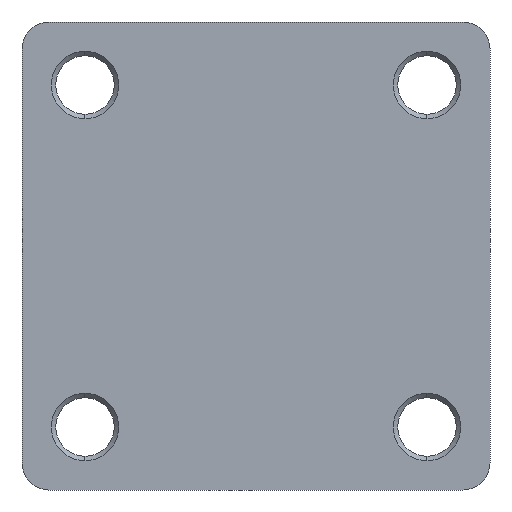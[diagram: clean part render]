
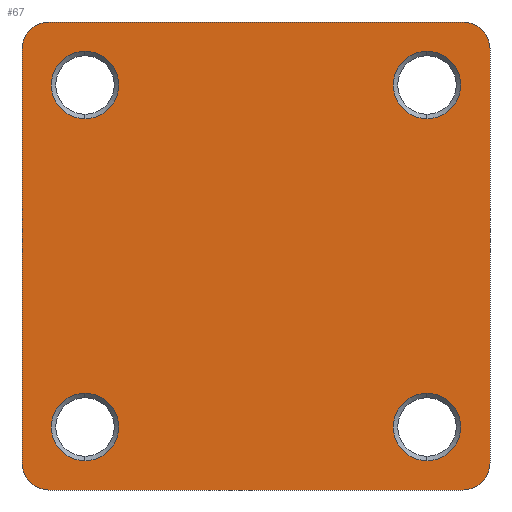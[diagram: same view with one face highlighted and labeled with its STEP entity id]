
A CAD part, left-side view. The second image highlights one B-rep face of the part: STEP entity #67.
In plain terms, the highlighted planar face has unit normal (-1, 0, 0).
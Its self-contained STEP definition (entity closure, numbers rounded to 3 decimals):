
#2 = DIRECTION ( 'NONE',  ( -1., 0., 0. ) ) ;
#18 = AXIS2_PLACEMENT_3D ( 'NONE', #542, #807, #662 ) ;
#19 = CARTESIAN_POINT ( 'NONE',  ( -9., -19., 19. ) ) ;
#25 = EDGE_LOOP ( 'NONE', ( #1156, #306 ) ) ;
#27 = CARTESIAN_POINT ( 'NONE',  ( -9., -26., 23. ) ) ;
#37 = AXIS2_PLACEMENT_3D ( 'NONE', #1829, #102, #495 ) ;
#67 = ADVANCED_FACE ( 'NONE', ( #1823, #921, #548, #1492, #1108 ), #963, .F. ) ;
#82 = AXIS2_PLACEMENT_3D ( 'NONE', #674, #565, #1433 ) ;
#102 = DIRECTION ( 'NONE',  ( -1., 0., 0. ) ) ;
#114 = CARTESIAN_POINT ( 'NONE',  ( -9., -19., 15.25 ) ) ;
#151 = EDGE_CURVE ( 'NONE', #1429, #567, #1129, .T. ) ;
#152 = EDGE_LOOP ( 'NONE', ( #1633, #247 ) ) ;
#155 = CARTESIAN_POINT ( 'NONE',  ( -9., 19., -15.25 ) ) ;
#157 = VERTEX_POINT ( 'NONE', #155 ) ;
#172 = EDGE_CURVE ( 'NONE', #1789, #1831, #743, .T. ) ;
#229 = DIRECTION ( 'NONE',  ( -1., 0., 0. ) ) ;
#233 = CARTESIAN_POINT ( 'NONE',  ( -9., 19., 19. ) ) ;
#235 = CARTESIAN_POINT ( 'NONE',  ( -9., 23., 23. ) ) ;
#243 = CARTESIAN_POINT ( 'NONE',  ( -9., 23., -23. ) ) ;
#247 = ORIENTED_EDGE ( 'NONE', *, *, #172, .F. ) ;
#265 = EDGE_CURVE ( 'NONE', #902, #818, #1338, .T. ) ;
#272 = DIRECTION ( 'NONE',  ( 0., 0., -1. ) ) ;
#276 = CARTESIAN_POINT ( 'NONE',  ( -9., 19., -22.75 ) ) ;
#280 = CARTESIAN_POINT ( 'NONE',  ( -9., 19., -19. ) ) ;
#285 = ORIENTED_EDGE ( 'NONE', *, *, #643, .F. ) ;
#293 = AXIS2_PLACEMENT_3D ( 'NONE', #235, #369, #1503 ) ;
#306 = ORIENTED_EDGE ( 'NONE', *, *, #851, .F. ) ;
#316 = VERTEX_POINT ( 'NONE', #27 ) ;
#337 = LINE ( 'NONE', #1044, #1394 ) ;
#350 = EDGE_LOOP ( 'NONE', ( #682, #937 ) ) ;
#364 = ORIENTED_EDGE ( 'NONE', *, *, #1454, .F. ) ;
#367 = EDGE_CURVE ( 'NONE', #959, #585, #337, .T. ) ;
#369 = DIRECTION ( 'NONE',  ( 1., 0., 0. ) ) ;
#381 = DIRECTION ( 'NONE',  ( 0., 0., -1. ) ) ;
#453 = CIRCLE ( 'NONE', #18, 3.75 ) ;
#495 = DIRECTION ( 'NONE',  ( 0., 0., 1. ) ) ;
#496 = LINE ( 'NONE', #755, #987 ) ;
#502 = CIRCLE ( 'NONE', #82, 3. ) ;
#514 = DIRECTION ( 'NONE',  ( 0., 0., 1. ) ) ;
#528 = ORIENTED_EDGE ( 'NONE', *, *, #696, .F. ) ;
#542 = CARTESIAN_POINT ( 'NONE',  ( -9., 19., -19. ) ) ;
#548 = FACE_BOUND ( 'NONE', #350, .T. ) ;
#555 = DIRECTION ( 'NONE',  ( 0., 0., 1. ) ) ;
#565 = DIRECTION ( 'NONE',  ( 1., 0., 0. ) ) ;
#567 = VERTEX_POINT ( 'NONE', #1797 ) ;
#581 = LINE ( 'NONE', #1079, #1033 ) ;
#585 = VERTEX_POINT ( 'NONE', #1032 ) ;
#643 = EDGE_CURVE ( 'NONE', #818, #902, #1151, .T. ) ;
#647 = EDGE_CURVE ( 'NONE', #1831, #1789, #1465, .T. ) ;
#662 = DIRECTION ( 'NONE',  ( 0., 0., 1. ) ) ;
#674 = CARTESIAN_POINT ( 'NONE',  ( -9., -23., -23. ) ) ;
#676 = EDGE_CURVE ( 'NONE', #1434, #724, #679, .T. ) ;
#679 = LINE ( 'NONE', #1537, #1490 ) ;
#682 = ORIENTED_EDGE ( 'NONE', *, *, #1459, .F. ) ;
#692 = ORIENTED_EDGE ( 'NONE', *, *, #367, .F. ) ;
#696 = EDGE_CURVE ( 'NONE', #585, #1434, #1801, .T. ) ;
#724 = VERTEX_POINT ( 'NONE', #1515 ) ;
#730 = DIRECTION ( 'NONE',  ( 0., 0., 1. ) ) ;
#731 = EDGE_CURVE ( 'NONE', #316, #1732, #581, .T. ) ;
#738 = CARTESIAN_POINT ( 'NONE',  ( -9., -23., 26. ) ) ;
#740 = AXIS2_PLACEMENT_3D ( 'NONE', #243, #1678, #1830 ) ;
#743 = CIRCLE ( 'NONE', #1234, 3.75 ) ;
#754 = ORIENTED_EDGE ( 'NONE', *, *, #731, .F. ) ;
#755 = CARTESIAN_POINT ( 'NONE',  ( -9., 23., 26. ) ) ;
#802 = DIRECTION ( 'NONE',  ( 1., 0., 0. ) ) ;
#807 = DIRECTION ( 'NONE',  ( -1., 0., 0. ) ) ;
#818 = VERTEX_POINT ( 'NONE', #114 ) ;
#851 = EDGE_CURVE ( 'NONE', #995, #157, #453, .T. ) ;
#858 = CARTESIAN_POINT ( 'NONE',  ( -9., 19., 19. ) ) ;
#890 = CARTESIAN_POINT ( 'NONE',  ( -9., 19., 15.25 ) ) ;
#902 = VERTEX_POINT ( 'NONE', #1554 ) ;
#905 = EDGE_CURVE ( 'NONE', #1732, #959, #502, .T. ) ;
#921 = FACE_BOUND ( 'NONE', #152, .T. ) ;
#923 = EDGE_CURVE ( 'NONE', #157, #995, #1771, .T. ) ;
#937 = ORIENTED_EDGE ( 'NONE', *, *, #151, .F. ) ;
#939 = AXIS2_PLACEMENT_3D ( 'NONE', #1708, #1125, #272 ) ;
#942 = CARTESIAN_POINT ( 'NONE',  ( -9., -19., -22.75 ) ) ;
#949 = ORIENTED_EDGE ( 'NONE', *, *, #676, .F. ) ;
#959 = VERTEX_POINT ( 'NONE', #1428 ) ;
#963 = PLANE ( 'NONE',  #939 ) ;
#987 = VECTOR ( 'NONE', #1631, 1000. ) ;
#989 = CARTESIAN_POINT ( 'NONE',  ( -9., -19., -19. ) ) ;
#995 = VERTEX_POINT ( 'NONE', #276 ) ;
#1008 = DIRECTION ( 'NONE',  ( -1., 0., 0. ) ) ;
#1032 = CARTESIAN_POINT ( 'NONE',  ( -9., 23., -26. ) ) ;
#1033 = VECTOR ( 'NONE', #381, 1000. ) ;
#1044 = CARTESIAN_POINT ( 'NONE',  ( -9., -23., -26. ) ) ;
#1045 = CIRCLE ( 'NONE', #293, 3. ) ;
#1069 = DIRECTION ( 'NONE',  ( 0., 1., 0. ) ) ;
#1075 = DIRECTION ( 'NONE',  ( 0., 0., -1. ) ) ;
#1079 = CARTESIAN_POINT ( 'NONE',  ( -9., -26., 23. ) ) ;
#1108 = FACE_OUTER_BOUND ( 'NONE', #1264, .T. ) ;
#1114 = ORIENTED_EDGE ( 'NONE', *, *, #265, .F. ) ;
#1125 = DIRECTION ( 'NONE',  ( 1., 0., 0. ) ) ;
#1129 = CIRCLE ( 'NONE', #1362, 3.75 ) ;
#1151 = CIRCLE ( 'NONE', #1688, 3.75 ) ;
#1156 = ORIENTED_EDGE ( 'NONE', *, *, #923, .F. ) ;
#1219 = CARTESIAN_POINT ( 'NONE',  ( -9., -23., 23. ) ) ;
#1224 = DIRECTION ( 'NONE',  ( -1., 0., 0. ) ) ;
#1231 = AXIS2_PLACEMENT_3D ( 'NONE', #233, #229, #514 ) ;
#1233 = CARTESIAN_POINT ( 'NONE',  ( -9., 19., 22.75 ) ) ;
#1234 = AXIS2_PLACEMENT_3D ( 'NONE', #858, #2, #1435 ) ;
#1247 = VERTEX_POINT ( 'NONE', #738 ) ;
#1264 = EDGE_LOOP ( 'NONE', ( #364, #1493, #1706, #949, #528, #692, #1307, #754 ) ) ;
#1307 = ORIENTED_EDGE ( 'NONE', *, *, #905, .F. ) ;
#1320 = AXIS2_PLACEMENT_3D ( 'NONE', #19, #1445, #730 ) ;
#1329 = EDGE_LOOP ( 'NONE', ( #1114, #285 ) ) ;
#1338 = CIRCLE ( 'NONE', #1320, 3.75 ) ;
#1359 = CARTESIAN_POINT ( 'NONE',  ( -9., -19., 19. ) ) ;
#1362 = AXIS2_PLACEMENT_3D ( 'NONE', #989, #1008, #1565 ) ;
#1366 = DIRECTION ( 'NONE',  ( 0., 0., 1. ) ) ;
#1394 = VECTOR ( 'NONE', #1069, 1000. ) ;
#1427 = VERTEX_POINT ( 'NONE', #1833 ) ;
#1428 = CARTESIAN_POINT ( 'NONE',  ( -9., -23., -26. ) ) ;
#1429 = VERTEX_POINT ( 'NONE', #942 ) ;
#1433 = DIRECTION ( 'NONE',  ( 0., 0., -1. ) ) ;
#1434 = VERTEX_POINT ( 'NONE', #1809 ) ;
#1435 = DIRECTION ( 'NONE',  ( 0., 0., 1. ) ) ;
#1445 = DIRECTION ( 'NONE',  ( -1., 0., 0. ) ) ;
#1454 = EDGE_CURVE ( 'NONE', #1247, #316, #1539, .T. ) ;
#1459 = EDGE_CURVE ( 'NONE', #567, #1429, #1677, .T. ) ;
#1465 = CIRCLE ( 'NONE', #1231, 3.75 ) ;
#1490 = VECTOR ( 'NONE', #1366, 1000. ) ;
#1492 = FACE_BOUND ( 'NONE', #1329, .T. ) ;
#1493 = ORIENTED_EDGE ( 'NONE', *, *, #1608, .F. ) ;
#1503 = DIRECTION ( 'NONE',  ( 0., 0., -1. ) ) ;
#1515 = CARTESIAN_POINT ( 'NONE',  ( -9., 26., 23. ) ) ;
#1537 = CARTESIAN_POINT ( 'NONE',  ( -9., 26., -23. ) ) ;
#1539 = CIRCLE ( 'NONE', #1715, 3. ) ;
#1554 = CARTESIAN_POINT ( 'NONE',  ( -9., -19., 22.75 ) ) ;
#1565 = DIRECTION ( 'NONE',  ( 0., 0., 1. ) ) ;
#1608 = EDGE_CURVE ( 'NONE', #1427, #1247, #496, .T. ) ;
#1617 = CARTESIAN_POINT ( 'NONE',  ( -9., -26., -23. ) ) ;
#1631 = DIRECTION ( 'NONE',  ( 0., -1., 0. ) ) ;
#1633 = ORIENTED_EDGE ( 'NONE', *, *, #647, .F. ) ;
#1675 = DIRECTION ( 'NONE',  ( 0., 0., 1. ) ) ;
#1677 = CIRCLE ( 'NONE', #37, 3.75 ) ;
#1678 = DIRECTION ( 'NONE',  ( 1., 0., 0. ) ) ;
#1688 = AXIS2_PLACEMENT_3D ( 'NONE', #1359, #1224, #1675 ) ;
#1706 = ORIENTED_EDGE ( 'NONE', *, *, #1795, .F. ) ;
#1708 = CARTESIAN_POINT ( 'NONE',  ( -9., -23., 23. ) ) ;
#1715 = AXIS2_PLACEMENT_3D ( 'NONE', #1219, #802, #1075 ) ;
#1727 = DIRECTION ( 'NONE',  ( -1., 0., 0. ) ) ;
#1732 = VERTEX_POINT ( 'NONE', #1617 ) ;
#1771 = CIRCLE ( 'NONE', #1862, 3.75 ) ;
#1789 = VERTEX_POINT ( 'NONE', #890 ) ;
#1795 = EDGE_CURVE ( 'NONE', #724, #1427, #1045, .T. ) ;
#1797 = CARTESIAN_POINT ( 'NONE',  ( -9., -19., -15.25 ) ) ;
#1801 = CIRCLE ( 'NONE', #740, 3. ) ;
#1809 = CARTESIAN_POINT ( 'NONE',  ( -9., 26., -23. ) ) ;
#1823 = FACE_BOUND ( 'NONE', #25, .T. ) ;
#1829 = CARTESIAN_POINT ( 'NONE',  ( -9., -19., -19. ) ) ;
#1830 = DIRECTION ( 'NONE',  ( 0., 0., -1. ) ) ;
#1831 = VERTEX_POINT ( 'NONE', #1233 ) ;
#1833 = CARTESIAN_POINT ( 'NONE',  ( -9., 23., 26. ) ) ;
#1862 = AXIS2_PLACEMENT_3D ( 'NONE', #280, #1727, #555 ) ;
